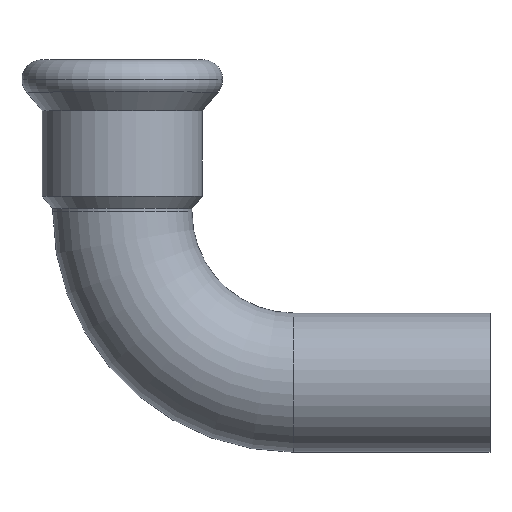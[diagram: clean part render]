
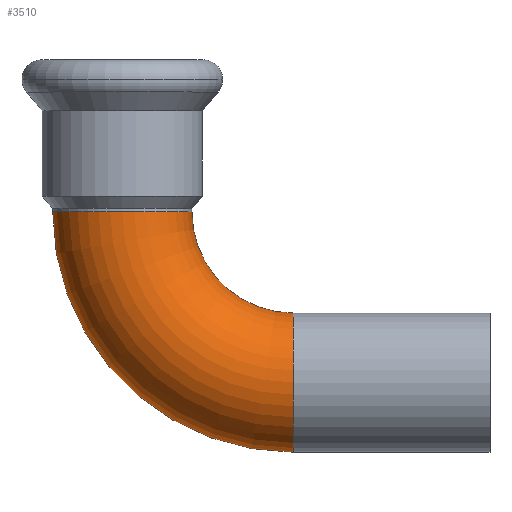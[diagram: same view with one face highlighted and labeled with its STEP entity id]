
A CAD part, top view. The second image highlights one B-rep face of the part: STEP entity #3510.
In plain terms, the highlighted toroidal (fillet/blend) face has major radius 27 mm and minor radius 11 mm.
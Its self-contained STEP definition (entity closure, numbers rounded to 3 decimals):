
#2860=CARTESIAN_POINT('',(-292.291,24.935,
0.));
#2870=VERTEX_POINT('',#2860);
#2900=CARTESIAN_POINT('',(-292.291,13.935,0.));
#2910=DIRECTION('',(1.,0.,0.));
#2920=DIRECTION('',(0.,-1.,0.));
#2930=AXIS2_PLACEMENT_3D('',#2900,#2910,#2920);
#2940=CIRCLE('',#2930,11.);
#2950=CARTESIAN_POINT('',(-292.291,2.935,0.));
#2960=VERTEX_POINT('',#2950);
#3170=CARTESIAN_POINT('',(-292.291,40.935,0.));
#3180=DIRECTION('',(0.,0.,1.));
#3190=DIRECTION('',(-1.,0.,0.));
#3200=AXIS2_PLACEMENT_3D('',#3170,#3180,#3190);
#3210=TOROIDAL_SURFACE('',#3200,27.,11.);
#3220=CARTESIAN_POINT('',(-292.291,40.935,
0.));
#3230=DIRECTION('',(0.,0.,1.));
#3240=DIRECTION('',(-1.,0.,0.));
#3250=AXIS2_PLACEMENT_3D('',#3220,#3230,#3240);
#3260=CIRCLE('',#3250,38.);
#3270=CARTESIAN_POINT('',(-330.291,40.935,
0.));
#3280=VERTEX_POINT('',#3270);
#3290=EDGE_CURVE('',#3280,#2960,#3260,.T.);
#3300=ORIENTED_EDGE('',*,*,#3290,.T.);
#3310=CARTESIAN_POINT('',(-319.291,40.935,0.));
#3320=DIRECTION('',(0.,-1.,0.));
#3330=DIRECTION('',(-1.,0.,0.));
#3340=AXIS2_PLACEMENT_3D('',#3310,#3320,#3330);
#3350=CIRCLE('',#3340,11.);
#3360=CARTESIAN_POINT('',(-308.291,40.935,
0.));
#3370=VERTEX_POINT('',#3360);
#3380=EDGE_CURVE('',#3370,#3280,#3350,.T.);
#3390=ORIENTED_EDGE('',*,*,#3380,.T.);
#3400=CARTESIAN_POINT('',(-292.291,40.935,
0.));
#3410=DIRECTION('',(0.,0.,1.));
#3420=DIRECTION('',(-1.,0.,0.));
#3430=AXIS2_PLACEMENT_3D('',#3400,#3410,#3420);
#3440=CIRCLE('',#3430,16.);
#3450=EDGE_CURVE('',#3370,#2870,#3440,.T.);
#3460=ORIENTED_EDGE('',*,*,#3450,.F.);
#3470=EDGE_CURVE('',#2870,#2960,#2940,.T.);
#3480=ORIENTED_EDGE('',*,*,#3470,.F.);
#3490=EDGE_LOOP('',(#3480,#3460,#3390,#3300));
#3500=FACE_OUTER_BOUND('',#3490,.T.);
#3510=ADVANCED_FACE('',(#3500),#3210,.T.);
